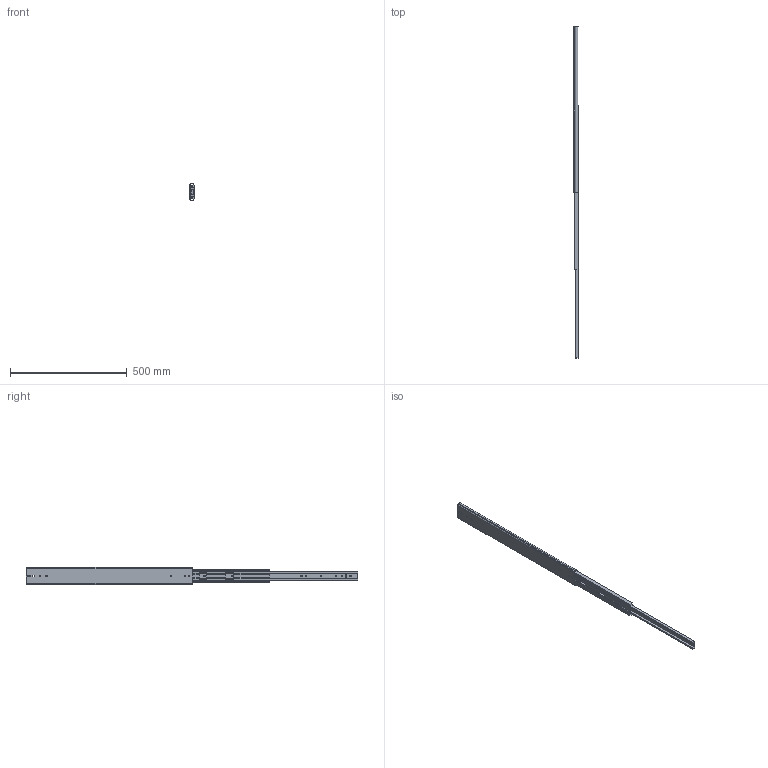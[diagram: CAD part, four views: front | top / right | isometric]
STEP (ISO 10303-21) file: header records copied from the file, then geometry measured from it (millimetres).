
FILE_DESCRIPTION(/* description */ ('Unknown'),/* implementation_level */ '2;1');
FILE_NAME(/* name */ '76J01-28 open',/* time_stamp */ '2024-07-26T15:56:38+08:00',/* author */ ('Unknown'),/* organization */ ('Unknown'),/* preprocessor_version */ 'ST-DEVELOPER v18.104',/* originating_system */ 'Solid Edge',/* authorisation */ 'Unknown');
FILE_SCHEMA (('AUTOMOTIVE_DESIGN {1 0 10303 214 3 1 1}'));
Length unit declared in the file: millimetre
Products named in the file (4): 76J01-28 open; 76J01 28 inch 內_0tional)_Taiwan.950; 76J01 28 吋中_; 76J01 28 吋
Assembly tree (3 placements, depth 2):
  76J01-28 open
    76J01 28 inch 內_0tional)_Taiwan.950
    76J01 28 吋中_
    76J01 28 吋
Bounding box: 19.3 x 1421.7 x 76.76 mm (x, y, z)
Volume: 556769.9 mm3; surface area: 347076.6 mm2
Topology: 3 solids, 3 shells, 188 faces, 575 edges, 387 vertices
Faces by surface type: plane 104, cylinder 84
Full cylindrical faces by diameter (mm): 5.2 x9, 7.1 x2
Entity records: 6871 total; most frequent: CARTESIAN_POINT 1124, ORIENTED_EDGE 1106, DIRECTION 1105, EDGE_CURVE 553, LINE 383, VECTOR 383, VERTEX_POINT 376, AXIS2_PLACEMENT_3D 361
